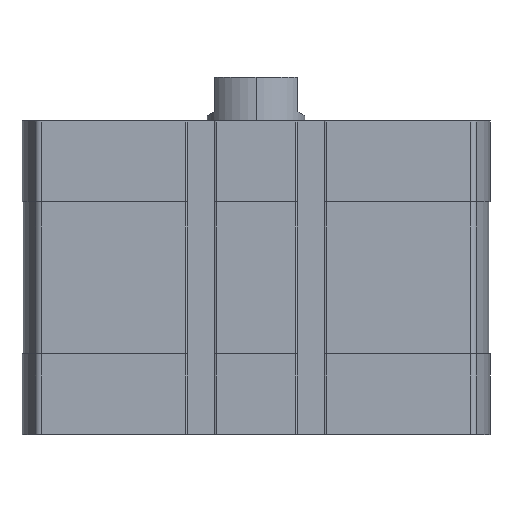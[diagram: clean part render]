
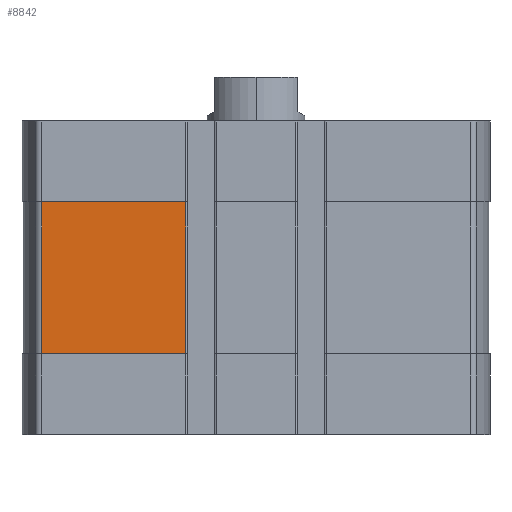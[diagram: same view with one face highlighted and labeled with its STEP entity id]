
A CAD part, left-side view. The second image highlights one B-rep face of the part: STEP entity #8842.
In plain terms, the highlighted planar face has unit normal (-1, 0, 0).
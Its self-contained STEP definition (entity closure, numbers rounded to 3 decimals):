
#197 = PLANE ( 'NONE',  #13032 ) ;
#411 = CARTESIAN_POINT ( 'NONE',  ( -47.5, 0., -47.5 ) ) ;
#1456 = DIRECTION ( 'NONE',  ( 0., 0., 1. ) ) ;
#1686 = CARTESIAN_POINT ( 'NONE',  ( -47.5, 43.743, -16.5 ) ) ;
#2567 = EDGE_CURVE ( 'NONE', #8748, #7748, #13329, .T. ) ;
#2868 = EDGE_CURVE ( 'NONE', #9827, #15212, #7015, .T. ) ;
#3648 = CARTESIAN_POINT ( 'NONE',  ( -47.5, 43.743, -47.5 ) ) ;
#4153 = ORIENTED_EDGE ( 'NONE', *, *, #2567, .T. ) ;
#5382 = LINE ( 'NONE', #1686, #13937 ) ;
#5474 = VECTOR ( 'NONE', #6438, 1000. ) ;
#6363 = VECTOR ( 'NONE', #10739, 1000. ) ;
#6438 = DIRECTION ( 'NONE',  ( 0., 1., 0. ) ) ;
#7006 = ORIENTED_EDGE ( 'NONE', *, *, #2868, .T. ) ;
#7015 = LINE ( 'NONE', #11936, #6363 ) ;
#7538 = DIRECTION ( 'NONE',  ( 0., 0., 1. ) ) ;
#7748 = VERTEX_POINT ( 'NONE', #13692 ) ;
#8486 = FACE_OUTER_BOUND ( 'NONE', #15033, .T. ) ;
#8711 = DIRECTION ( 'NONE',  ( -1., 0., 0. ) ) ;
#8748 = VERTEX_POINT ( 'NONE', #13228 ) ;
#8842 = ADVANCED_FACE ( 'NONE', ( #8486 ), #197, .T. ) ;
#9827 = VERTEX_POINT ( 'NONE', #14672 ) ;
#10046 = ORIENTED_EDGE ( 'NONE', *, *, #13207, .T. ) ;
#10429 = EDGE_CURVE ( 'NONE', #8748, #15212, #10712, .T. ) ;
#10712 = LINE ( 'NONE', #411, #5474 ) ;
#10739 = DIRECTION ( 'NONE',  ( 0., 0., -1. ) ) ;
#10979 = CARTESIAN_POINT ( 'NONE',  ( -47.5, 14.3, -47.5 ) ) ;
#11936 = CARTESIAN_POINT ( 'NONE',  ( -47.5, 43.743, -47.5 ) ) ;
#12529 = DIRECTION ( 'NONE',  ( 0., 1., 0. ) ) ;
#13032 = AXIS2_PLACEMENT_3D ( 'NONE', #14525, #8711, #1456 ) ;
#13207 = EDGE_CURVE ( 'NONE', #7748, #9827, #5382, .T. ) ;
#13228 = CARTESIAN_POINT ( 'NONE',  ( -47.5, 14.3, -47.5 ) ) ;
#13266 = VECTOR ( 'NONE', #7538, 1000. ) ;
#13329 = LINE ( 'NONE', #10979, #13266 ) ;
#13692 = CARTESIAN_POINT ( 'NONE',  ( -47.5, 14.3, -16.5 ) ) ;
#13937 = VECTOR ( 'NONE', #12529, 1000. ) ;
#14119 = ORIENTED_EDGE ( 'NONE', *, *, #10429, .F. ) ;
#14525 = CARTESIAN_POINT ( 'NONE',  ( -47.5, 43.743, -47.5 ) ) ;
#14672 = CARTESIAN_POINT ( 'NONE',  ( -47.5, 43.743, -16.5 ) ) ;
#15033 = EDGE_LOOP ( 'NONE', ( #14119, #4153, #10046, #7006 ) ) ;
#15212 = VERTEX_POINT ( 'NONE', #3648 ) ;
